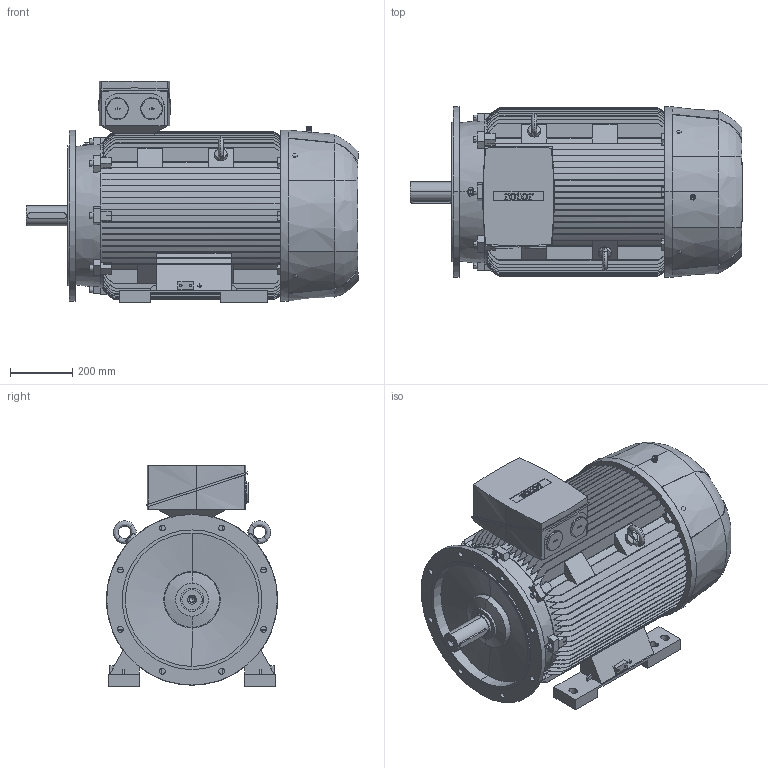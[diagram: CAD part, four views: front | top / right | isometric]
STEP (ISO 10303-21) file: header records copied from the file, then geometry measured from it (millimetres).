
FILE_DESCRIPTION (( 'STEP AP214' ), '1' );
FILE_NAME ('6RN280S02E40 IM2041.STEP', '2017-01-12T15:57:29', ( 'rbc_ict' ), ( 'Microsoft' ), 'SwSTEP 2.0', 'SolidWorks 2015', '' );
FILE_SCHEMA (( 'AUTOMOTIVE_DESIGN' ));
Length unit declared in the file: millimetre
Products named in the file (1): 6RN280S02E40 IM2041
Bounding box: 1070 x 551 x 713 mm (x, y, z)
Volume: 187022819.3 mm3; surface area: 5697212.9 mm2
Topology: 1 solids, 1 shells, 1238 faces, 3470 edges, 2292 vertices
Faces by surface type: plane 756, cylinder 242, bspline 217, cone 23
Entity records: 62049 total; most frequent: CARTESIAN_POINT 19236, ORIENTED_EDGE 6928, DIRECTION 5347, EDGE_CURVE 3464, VERTEX_POINT 2292, VECTOR 2031, LINE 2031, AXIS2_PLACEMENT_3D 1658
